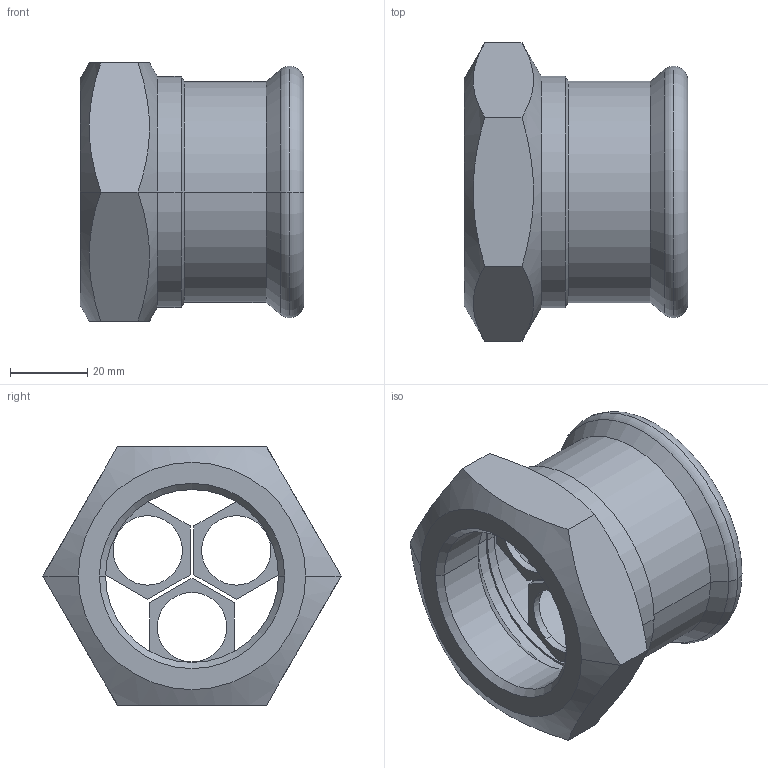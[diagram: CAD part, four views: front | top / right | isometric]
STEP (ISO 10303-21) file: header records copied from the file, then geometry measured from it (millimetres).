
FILE_DESCRIPTION(('OneSpaceDesigner STEP Export'),'2;1');
FILE_NAME('R2702 54xRp1 1-2.stp','2010-06-09T 8:53:25',(''),(''),'OneSpace Designer STEP processor for AP214 (Solid Model)','OneSpace Modeling 15.00A 14-Mar-2007 (C) CoCreate Software GmbH','');
FILE_SCHEMA(('AUTOMOTIVE_DESIGN { 1 0 10303 214 1 1 1 1 }'));
Length unit declared in the file: millimetre
Products named in the file (2): R2702_54xRp1.1-2
Assembly tree (1 placements, depth 2):
  R2702_54xRp1.1-2
    R2702_54xRp1.1-2
Bounding box: 58 x 77.36 x 67 mm (x, y, z)
Volume: 58175.5 mm3; surface area: 26670.7 mm2
Topology: 1 solids, 1 shells, 78 faces, 188 edges, 117 vertices
Faces by surface type: plane 37, cylinder 23, cone 14, torus 4
Entity records: 2967 total; most frequent: CARTESIAN_POINT 1280, ORIENTED_EDGE 376, DIRECTION 285, EDGE_CURVE 188, VERTEX_POINT 117, VECTOR 109, LINE 109, EDGE_LOOP 91
